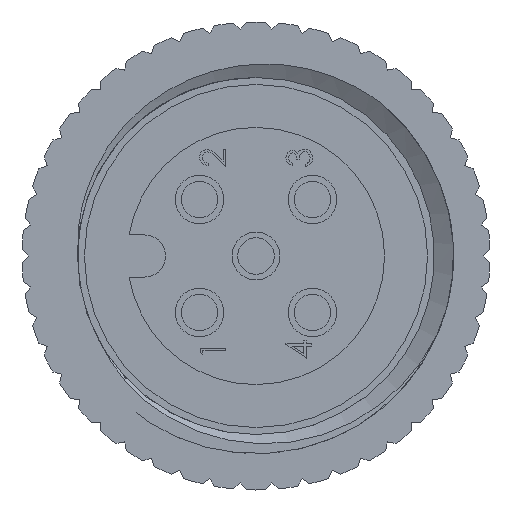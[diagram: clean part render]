
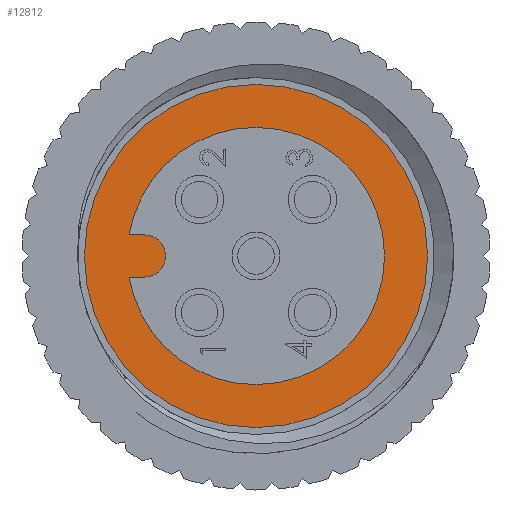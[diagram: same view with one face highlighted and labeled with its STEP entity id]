
A CAD part, left-side view. The second image highlights one B-rep face of the part: STEP entity #12812.
In plain terms, the highlighted planar face has unit normal (-1, 0, 0).
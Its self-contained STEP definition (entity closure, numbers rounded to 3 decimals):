
#1051 = CARTESIAN_POINT ( 'NONE',  ( 8.509, 3.493, -0.66 ) ) ;
#1054 = LINE ( 'NONE', #1051, #2976 ) ;
#1056 = CARTESIAN_POINT ( 'NONE',  ( 8.509, 3.493, 0.66 ) ) ;
#1057 = CARTESIAN_POINT ( 'NONE',  ( 8.509, 0., 0. ) ) ;
#1058 = DIRECTION ( 'NONE',  ( -1., 0., 0. ) ) ;
#1059 = DIRECTION ( 'NONE',  ( 0., 0., 1. ) ) ;
#1060 = LINE ( 'NONE', #1056, #2979 ) ;
#1061 = DIRECTION ( 'NONE',  ( 0., -1., 0. ) ) ;
#1063 = CARTESIAN_POINT ( 'NONE',  ( 8.509, 3.493, 0. ) ) ;
#1064 = DIRECTION ( 'NONE',  ( -1., 0., 0. ) ) ;
#1065 = DIRECTION ( 'NONE',  ( 0., 0., 1. ) ) ;
#1066 = DIRECTION ( 'NONE',  ( 0., 1., 0. ) ) ;
#1069 = CARTESIAN_POINT ( 'NONE',  ( 8.509, 0., 0. ) ) ;
#1070 = DIRECTION ( 'NONE',  ( -1., 0., 0. ) ) ;
#1071 = DIRECTION ( 'NONE',  ( 0., 0., 1. ) ) ;
#2283 = AXIS2_PLACEMENT_3D ( 'NONE', #4352, #4353, #4354 ) ;
#2974 = CIRCLE ( 'NONE', #2977, 5.372 ) ;
#2975 = CIRCLE ( 'NONE', #2980, 0.66 ) ;
#2976 = VECTOR ( 'NONE', #1061, 1000. ) ;
#2977 = AXIS2_PLACEMENT_3D ( 'NONE', #1057, #1058, #1059 ) ;
#2979 = VECTOR ( 'NONE', #1066, 1000. ) ;
#2980 = AXIS2_PLACEMENT_3D ( 'NONE', #1063, #1064, #1065 ) ;
#2981 = CIRCLE ( 'NONE', #2983, 4.026 ) ;
#2983 = AXIS2_PLACEMENT_3D ( 'NONE', #1069, #1070, #1071 ) ;
#3493 = CIRCLE ( 'NONE', #3525, 4.026 ) ;
#3508 = CIRCLE ( 'NONE', #3617, 4.026 ) ;
#3525 = AXIS2_PLACEMENT_3D ( 'NONE', #14003, #14004, #14005 ) ;
#3617 = AXIS2_PLACEMENT_3D ( 'NONE', #14045, #14046, #14047 ) ;
#4326 = FACE_OUTER_BOUND ( 'NONE', #13428, .T. ) ;
#4341 = FACE_BOUND ( 'NONE', #13430, .T. ) ;
#4343 = PLANE ( 'NONE',  #2283 ) ;
#4352 = CARTESIAN_POINT ( 'NONE',  ( 8.509, 0., 0. ) ) ;
#4353 = DIRECTION ( 'NONE',  ( -1., 0., 0. ) ) ;
#4354 = DIRECTION ( 'NONE',  ( 0., 0., 1. ) ) ;
#4581 = EDGE_CURVE ( 'NONE', #10647, #10643, #3493, .T. ) ;
#4595 = EDGE_CURVE ( 'NONE', #10646, #10647, #3508, .T. ) ;
#6433 = CARTESIAN_POINT ( 'NONE',  ( 8.509, 0., -5.372 ) ) ;
#6568 = EDGE_CURVE ( 'NONE', #10644, #14692, #11569, .T. ) ;
#9783 = CARTESIAN_POINT ( 'NONE',  ( 8.509, 0., 0. ) ) ;
#9784 = DIRECTION ( 'NONE',  ( -1., 0., 0. ) ) ;
#9785 = DIRECTION ( 'NONE',  ( 0., 0., 1. ) ) ;
#10085 = CARTESIAN_POINT ( 'NONE',  ( 8.509, 3.493, -0.66 ) ) ;
#10112 = CARTESIAN_POINT ( 'NONE',  ( 8.509, 3.493, 0.66 ) ) ;
#10113 = CARTESIAN_POINT ( 'NONE',  ( 8.509, 3.971, 0.66 ) ) ;
#10127 = CARTESIAN_POINT ( 'NONE',  ( 8.509, 0., 4.026 ) ) ;
#10128 = CARTESIAN_POINT ( 'NONE',  ( 8.509, 0., 5.372 ) ) ;
#10130 = CARTESIAN_POINT ( 'NONE',  ( 8.509, 3.971, -0.66 ) ) ;
#10131 = CARTESIAN_POINT ( 'NONE',  ( 8.509, 0., -4.026 ) ) ;
#10555 = VERTEX_POINT ( 'NONE', #10085 ) ;
#10582 = VERTEX_POINT ( 'NONE', #10112 ) ;
#10583 = VERTEX_POINT ( 'NONE', #10113 ) ;
#10643 = VERTEX_POINT ( 'NONE', #10127 ) ;
#10644 = VERTEX_POINT ( 'NONE', #10128 ) ;
#10646 = VERTEX_POINT ( 'NONE', #10130 ) ;
#10647 = VERTEX_POINT ( 'NONE', #10131 ) ;
#10699 = ORIENTED_EDGE ( 'NONE', *, *, #14241, .T. ) ;
#10700 = ORIENTED_EDGE ( 'NONE', *, *, #14240, .T. ) ;
#10701 = ORIENTED_EDGE ( 'NONE', *, *, #14239, .T. ) ;
#10702 = ORIENTED_EDGE ( 'NONE', *, *, #4595, .F. ) ;
#11510 = AXIS2_PLACEMENT_3D ( 'NONE', #9783, #9784, #9785 ) ;
#11569 = CIRCLE ( 'NONE', #11510, 5.372 ) ;
#12812 = ADVANCED_FACE ( 'NONE', ( #4341, #4326 ), #4343, .T. ) ;
#13388 = ORIENTED_EDGE ( 'NONE', *, *, #14238, .T. ) ;
#13389 = ORIENTED_EDGE ( 'NONE', *, *, #6568, .T. ) ;
#13390 = ORIENTED_EDGE ( 'NONE', *, *, #4581, .F. ) ;
#13391 = ORIENTED_EDGE ( 'NONE', *, *, #14242, .F. ) ;
#13428 = EDGE_LOOP ( 'NONE', ( #13389, #13388 ) ) ;
#13430 = EDGE_LOOP ( 'NONE', ( #10702, #10701, #10700, #10699, #13391, #13390 ) ) ;
#14003 = CARTESIAN_POINT ( 'NONE',  ( 8.509, 0., 0. ) ) ;
#14004 = DIRECTION ( 'NONE',  ( -1., 0., 0. ) ) ;
#14005 = DIRECTION ( 'NONE',  ( 0., 0., 1. ) ) ;
#14045 = CARTESIAN_POINT ( 'NONE',  ( 8.509, 0., 0. ) ) ;
#14046 = DIRECTION ( 'NONE',  ( -1., 0., 0. ) ) ;
#14047 = DIRECTION ( 'NONE',  ( 0., 0., 1. ) ) ;
#14238 = EDGE_CURVE ( 'NONE', #14692, #10644, #2974, .T. ) ;
#14239 = EDGE_CURVE ( 'NONE', #10646, #10555, #1054, .T. ) ;
#14240 = EDGE_CURVE ( 'NONE', #10555, #10582, #2975, .T. ) ;
#14241 = EDGE_CURVE ( 'NONE', #10582, #10583, #1060, .T. ) ;
#14242 = EDGE_CURVE ( 'NONE', #10643, #10583, #2981, .T. ) ;
#14692 = VERTEX_POINT ( 'NONE', #6433 ) ;
